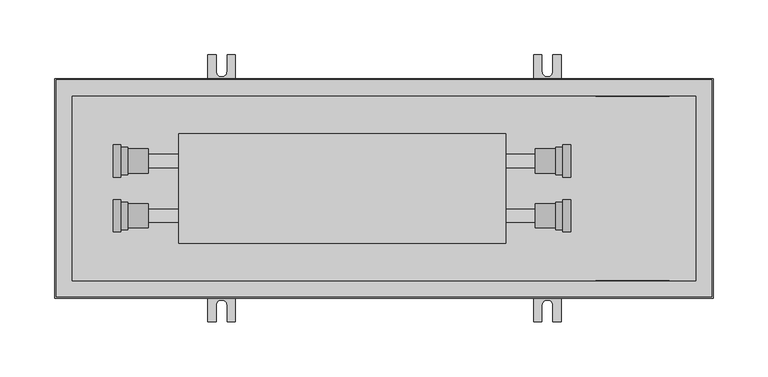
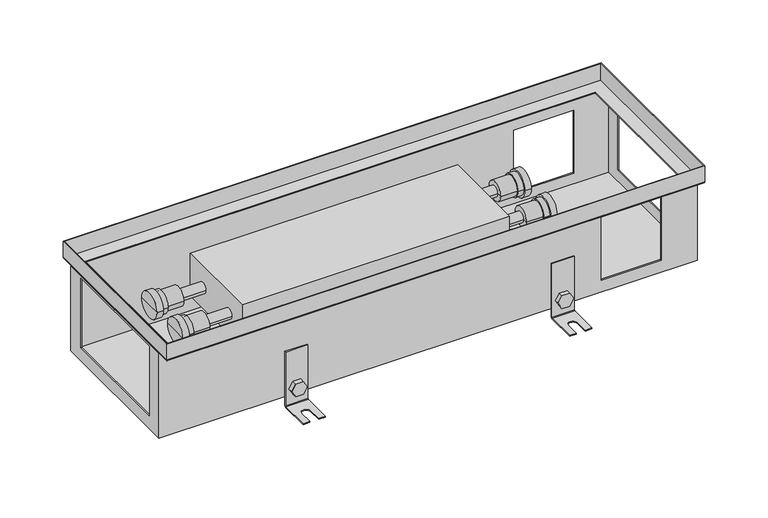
"""IFC4 building model written with IfcOpenShell, lengths in millimetres: proxy geometry, TECHNO_Конвектор встраиваемый_Usual_KVP-200_85-105-120 : KVP 200-120."""

from ifc_helpers import new_model, si_unit, point, frame, frame_2d, origin, place, context, project, spatial, polyline, circle_curve, ellipse_curve, trimmed, segment, composite_curve, outline, extrude, faceted_brep, source, transform, mapped, element, save
from ifc_brep_helpers import plane_surface, cylinder_surface, revolved_surface, advanced_brep


def mechanical_equipment_65e398eb(model_context):
    return source(origin(), model_context, "Body", "SolidModel", [
        extrude(outline(composite_curve([segment(trimmed(circle_curve(frame_2d((-110.5, 449.0)), 7.5), [point((-110.5, 441.5))], [point((-110.5, 456.5))], False, "CARTESIAN"), True, "CONTINUOUS"), segment(trimmed(circle_curve(frame_2d((-110.5, 449.0)), 7.5), [point((-110.5, 456.5))], [point((-110.5, 441.5))], False, "CARTESIAN"), True, "CONTINUOUS")], self_intersect=False)), frame((0.0, 85.2, 0.0), z_axis=(0.0, 1.0, 0.0), x_axis=(0.0, 0.0, 1.0)), (0.0, 0.0, 1.0), 1.5),
        extrude(outline(polyline([(-110.5, 440.339746), (-118.0, 444.669873), (-118.0, 453.330127), (-110.5, 457.660254), (-103.0, 453.330127), (-103.0, 444.669873), (-110.5, 440.339746)])), frame((0.0, 87.9, 0.0), z_axis=(0.0, 1.0, 0.0), x_axis=(0.0, 0.0, 1.0)), (0.0, 0.0, 1.0), 5.1),
        advanced_brep(
        [(461.5, 87.9, -65.5), (461.5, 86.7, -65.5), (461.5, 86.7, -128.5), (461.5, 88.7, -130.5), (461.5, 121.7, -130.5), (461.5, 121.7, -129.3), (461.5, 88.7, -129.3), (461.5, 87.9, -128.5), (436.5, 87.9, -65.5), (436.5, 87.9, -128.5), (436.5, 88.7, -129.3), (436.5, 121.7, -129.3), (436.5, 121.7, -130.5), (436.5, 88.7, -130.5), (436.5, 86.7, -128.5), (436.5, 86.7, -65.5), (454.0, 121.7, -129.3), (454.0, 106.7, -129.3), (444.0, 106.7, -129.3), (444.0, 121.7, -129.3), (444.0, 121.7, -130.5), (454.0, 121.7, -130.5), (444.0, 106.7, -130.5), (454.0, 106.7, -130.5)],
        [
            (0, 1),
            (1, 2),
            (2, 3, circle_curve(frame((461.5, 88.7, -128.5), z_axis=(1.0, 0.0, 0.0), x_axis=(0.0, 1.0, 0.0)), 2.0)),
            (3, 4),
            (4, 5),
            (5, 6),
            (6, 7, circle_curve(frame((461.5, 88.7, -128.5), z_axis=(-1.0, 0.0, 0.0), x_axis=(0.0, 1.0, 0.0)), 0.8)),
            (7, 0),
            (8, 9),
            (9, 10, circle_curve(frame((436.5, 88.7, -128.5), z_axis=(1.0, 0.0, 0.0), x_axis=(0.0, 1.0, 0.0)), 0.8)),
            (10, 11),
            (11, 12),
            (12, 13),
            (13, 14, circle_curve(frame((436.5, 88.7, -128.5), z_axis=(-1.0, 0.0, 0.0), x_axis=(0.0, 1.0, 0.0)), 2.0)),
            (14, 15),
            (15, 8),
            (7, 9),
            (8, 0),
            (6, 10),
            (5, 16),
            (16, 17),
            (17, 18, circle_curve(frame((449.0, 106.7, -129.3), z_axis=(0.0, 0.0, -1.0), x_axis=(1.0, 0.0, 0.0)), 5.0)),
            (18, 19),
            (19, 11),
            (19, 20),
            (20, 12),
            (4, 21),
            (21, 16),
            (3, 13),
            (20, 22),
            (22, 23, circle_curve(frame((449.0, 106.7, -130.5), z_axis=(0.0, 0.0, 1.0), x_axis=(1.0, 0.0, 0.0)), 5.0)),
            (23, 21),
            (2, 14),
            (1, 15),
            (18, 22),
            (23, 17),
        ],
        [
            plane_surface(frame((461.5, 87.9, -65.5), z_axis=(1.0, 0.0, 0.0), x_axis=(0.0, 0.0, -1.0))),
            plane_surface(frame((436.5, 87.9, -65.5), z_axis=(-1.0, 0.0, 0.0), x_axis=(0.0, 0.0, 1.0))),
            plane_surface(frame((461.5, 87.9, -65.5), z_axis=(0.0, 1.0, 0.0), x_axis=(-1.0, 0.0, 0.0))),
            revolved_surface(polyline([(436.5, 89.5, -128.5), (461.5, 89.5, -128.5)]), (436.5, 88.7, -128.5), (-1.0, 0.0, 0.0)),
            plane_surface(frame((461.5, 88.7, -129.3), z_axis=(0.0, 0.0, 1.0), x_axis=(-1.0, 0.0, 0.0))),
            plane_surface(frame((461.5, 121.7, -129.3), z_axis=(0.0, 1.0, 0.0), x_axis=(-1.0, 0.0, 0.0))),
            plane_surface(frame((461.5, 121.7, -130.5), z_axis=(0.0, 0.0, -1.0), x_axis=(-1.0, 0.0, 0.0))),
            cylinder_surface(frame((436.5, 88.7, -128.5), z_axis=(1.0, 0.0, 0.0), x_axis=(0.0, 1.0, 0.0)), 2.0),
            plane_surface(frame((461.5, 86.7, -128.5), z_axis=(0.0, -1.0, 0.0), x_axis=(-1.0, 0.0, 0.0))),
            plane_surface(frame((461.5, 86.7, -65.5), z_axis=(0.0, 0.0, 1.0), x_axis=(-1.0, 0.0, 0.0))),
            plane_surface(frame((444.0, 106.7, -129.3), z_axis=(1.0, 0.0, 0.0), x_axis=(0.0, 0.0, -1.0))),
            plane_surface(frame((454.0, 121.7, -129.3), z_axis=(-1.0, 0.0, 0.0), x_axis=(0.0, 0.0, -1.0))),
            revolved_surface(polyline([(454.0, 106.7, -129.3), (454.0, 106.7, -130.5)]), (449.0, 106.7, -130.5), (0.0, 0.0, 1.0)),
        ],
        [
            (0, [[1, 2, 3, 4, 5, 6, 7, 8]]),
            (1, [[9, 10, 11, 12, 13, 14, 15, 16]]),
            (2, [[17, -9, 18, -8]]),
            (3, [[19, -10, -17, -7]]),
            (4, [[20, 21, 22, 23, 24, -11, -19, -6]]),
            (5, [[-24, 25, 26, -12]]),
            (5, [[27, 28, -20, -5]]),
            (6, [[29, -13, -26, 30, 31, 32, -27, -4]]),
            (7, [[33, -14, -29, -3]]),
            (8, [[34, -15, -33, -2]]),
            (9, [[-18, -16, -34, -1]]),
            (10, [[-30, -25, -23, 35]]),
            (11, [[-21, -28, -32, 36]]),
            (12, [[-22, -36, -31, -35]]),
        ],
    ),
        extrude(outline(composite_curve([segment(trimmed(circle_curve(frame_2d((-110.5, 449.0)), 7.5), [point((-110.5, 441.5))], [point((-110.5, 456.5))], False, "CARTESIAN"), True, "CONTINUOUS"), segment(trimmed(circle_curve(frame_2d((-110.5, 449.0)), 7.5), [point((-110.5, 456.5))], [point((-110.5, 441.5))], False, "CARTESIAN"), True, "CONTINUOUS")], self_intersect=False)), frame((0.0, -86.7, 0.0), z_axis=(0.0, 1.0, 0.0), x_axis=(0.0, 0.0, 1.0)), (0.0, 0.0, 1.0), 1.5),
        extrude(outline(polyline([(-110.5, 440.339746), (-118.0, 444.669873), (-118.0, 453.330127), (-110.5, 457.660254), (-103.0, 453.330127), (-103.0, 444.669873), (-110.5, 440.339746)])), frame((0.0, -93.0, 0.0), z_axis=(0.0, 1.0, 0.0), x_axis=(0.0, 0.0, 1.0)), (0.0, 0.0, 1.0), 5.1),
        advanced_brep(
        [(461.5, -87.9, -65.5), (461.5, -87.9, -128.5), (461.5, -88.7, -129.3), (461.5, -121.7, -129.3), (461.5, -121.7, -130.5), (461.5, -88.7, -130.5), (461.5, -86.7, -128.5), (461.5, -86.7, -65.5), (436.5, -87.9, -65.5), (436.5, -86.7, -65.5), (436.5, -86.7, -128.5), (436.5, -88.7, -130.5), (436.5, -121.7, -130.5), (436.5, -121.7, -129.3), (436.5, -88.7, -129.3), (436.5, -87.9, -128.5), (444.0, -121.7, -129.3), (444.0, -106.7, -129.3), (454.0, -106.7, -129.3), (454.0, -121.7, -129.3), (454.0, -121.7, -130.5), (444.0, -121.7, -130.5), (454.0, -106.7, -130.5), (444.0, -106.7, -130.5)],
        [
            (0, 1),
            (1, 2, circle_curve(frame((461.5, -88.7, -128.5), z_axis=(-1.0, 0.0, 0.0), x_axis=(0.0, -1.0, 0.0)), 0.8)),
            (2, 3),
            (3, 4),
            (4, 5),
            (5, 6, circle_curve(frame((461.5, -88.7, -128.5), z_axis=(1.0, 0.0, 0.0), x_axis=(0.0, -1.0, 0.0)), 2.0)),
            (6, 7),
            (7, 0),
            (8, 9),
            (9, 10),
            (10, 11, circle_curve(frame((436.5, -88.7, -128.5), z_axis=(-1.0, 0.0, 0.0), x_axis=(0.0, -1.0, 0.0)), 2.0)),
            (11, 12),
            (12, 13),
            (13, 14),
            (14, 15, circle_curve(frame((436.5, -88.7, -128.5), z_axis=(1.0, 0.0, 0.0), x_axis=(0.0, -1.0, 0.0)), 0.8)),
            (15, 8),
            (0, 8),
            (15, 1),
            (14, 2),
            (13, 16),
            (16, 17),
            (17, 18, circle_curve(frame((449.0, -106.7, -129.3), z_axis=(0.0, 0.0, -1.0), x_axis=(1.0, 0.0, 0.0)), 5.0)),
            (18, 19),
            (19, 3),
            (19, 20),
            (20, 4),
            (12, 21),
            (21, 16),
            (20, 22),
            (22, 23, circle_curve(frame((449.0, -106.7, -130.5), z_axis=(0.0, 0.0, 1.0), x_axis=(1.0, 0.0, 0.0)), 5.0)),
            (23, 21),
            (11, 5),
            (10, 6),
            (9, 7),
            (23, 17),
            (18, 22),
        ],
        [
            plane_surface(frame((461.5, -87.9, -65.5), z_axis=(1.0, 0.0, 0.0), x_axis=(0.0, 0.0, -1.0))),
            plane_surface(frame((436.5, -87.9, -65.5), z_axis=(-1.0, 0.0, 0.0), x_axis=(0.0, 0.0, 1.0))),
            plane_surface(frame((461.5, -87.9, -65.5), z_axis=(0.0, -1.0, 0.0), x_axis=(-1.0, 0.0, 0.0))),
            revolved_surface(polyline([(436.5, -89.5, -128.5), (461.5, -89.5, -128.5)]), (436.5, -88.7, -128.5), (-1.0, 0.0, 0.0)),
            plane_surface(frame((461.5, -88.7, -129.3), z_axis=(0.0, 0.0, 1.0), x_axis=(-1.0, 0.0, 0.0))),
            plane_surface(frame((461.5, -121.7, -129.3), z_axis=(0.0, -1.0, 0.0), x_axis=(-1.0, 0.0, 0.0))),
            plane_surface(frame((461.5, -121.7, -130.5), z_axis=(0.0, 0.0, -1.0), x_axis=(-1.0, 0.0, 0.0))),
            cylinder_surface(frame((436.5, -88.7, -128.5), z_axis=(1.0, 0.0, 0.0), x_axis=(0.0, -1.0, 0.0)), 2.0),
            plane_surface(frame((461.5, -86.7, -128.5), z_axis=(0.0, 1.0, 0.0), x_axis=(-1.0, 0.0, 0.0))),
            plane_surface(frame((461.5, -86.7, -65.5), z_axis=(0.0, 0.0, 1.0), x_axis=(-1.0, 0.0, 0.0))),
            plane_surface(frame((444.0, -106.7, -129.3), z_axis=(1.0, 0.0, 0.0), x_axis=(0.0, 0.0, -1.0))),
            plane_surface(frame((454.0, -121.7, -129.3), z_axis=(-1.0, 0.0, 0.0), x_axis=(0.0, 0.0, -1.0))),
            revolved_surface(polyline([(454.0, -106.7, -129.3), (454.0, -106.7, -130.5)]), (449.0, -106.7, -130.5), (0.0, 0.0, 1.0)),
        ],
        [
            (0, [[1, 2, 3, 4, 5, 6, 7, 8]]),
            (1, [[9, 10, 11, 12, 13, 14, 15, 16]]),
            (2, [[-1, 17, -16, 18]]),
            (3, [[-2, -18, -15, 19]]),
            (4, [[-3, -19, -14, 20, 21, 22, 23, 24]]),
            (5, [[-4, -24, 25, 26]]),
            (5, [[-13, 27, 28, -20]]),
            (6, [[-5, -26, 29, 30, 31, -27, -12, 32]]),
            (7, [[-6, -32, -11, 33]]),
            (8, [[-7, -33, -10, 34]]),
            (9, [[-8, -34, -9, -17]]),
            (10, [[35, -21, -28, -31]]),
            (11, [[36, -29, -25, -23]]),
            (12, [[-35, -30, -36, -22]]),
        ],
    ),
        extrude(outline(composite_curve([segment(trimmed(circle_curve(frame_2d((-110.5, 152.0)), 7.5), [point((-110.5, 144.5))], [point((-110.5, 159.5))], False, "CARTESIAN"), True, "CONTINUOUS"), segment(trimmed(circle_curve(frame_2d((-110.5, 152.0)), 7.5), [point((-110.5, 159.5))], [point((-110.5, 144.5))], False, "CARTESIAN"), True, "CONTINUOUS")], self_intersect=False)), frame((0.0, 85.2, 0.0), z_axis=(0.0, 1.0, 0.0), x_axis=(0.0, 0.0, 1.0)), (0.0, 0.0, 1.0), 1.5),
        extrude(outline(polyline([(-110.5, 143.339746), (-118.0, 147.669873), (-118.0, 156.330127), (-110.5, 160.660254), (-103.0, 156.330127), (-103.0, 147.669873), (-110.5, 143.339746)])), frame((0.0, 87.9, 0.0), z_axis=(0.0, 1.0, 0.0), x_axis=(0.0, 0.0, 1.0)), (0.0, 0.0, 1.0), 5.1),
        advanced_brep(
        [(164.5, 87.9, -65.5), (164.5, 86.7, -65.5), (164.5, 86.7, -128.5), (164.5, 88.7, -130.5), (164.5, 121.7, -130.5), (164.5, 121.7, -129.3), (164.5, 88.7, -129.3), (164.5, 87.9, -128.5), (139.5, 87.9, -65.5), (139.5, 87.9, -128.5), (139.5, 88.7, -129.3), (139.5, 121.7, -129.3), (139.5, 121.7, -130.5), (139.5, 88.7, -130.5), (139.5, 86.7, -128.5), (139.5, 86.7, -65.5), (157.0, 121.7, -129.3), (157.0, 106.7, -129.3), (147.0, 106.7, -129.3), (147.0, 121.7, -129.3), (147.0, 121.7, -130.5), (157.0, 121.7, -130.5), (147.0, 106.7, -130.5), (157.0, 106.7, -130.5)],
        [
            (0, 1),
            (1, 2),
            (2, 3, circle_curve(frame((164.5, 88.7, -128.5), z_axis=(1.0, 0.0, 0.0), x_axis=(0.0, 1.0, 0.0)), 2.0)),
            (3, 4),
            (4, 5),
            (5, 6),
            (6, 7, circle_curve(frame((164.5, 88.7, -128.5), z_axis=(-1.0, 0.0, 0.0), x_axis=(0.0, 1.0, 0.0)), 0.8)),
            (7, 0),
            (8, 9),
            (9, 10, circle_curve(frame((139.5, 88.7, -128.5), z_axis=(1.0, 0.0, 0.0), x_axis=(0.0, 1.0, 0.0)), 0.8)),
            (10, 11),
            (11, 12),
            (12, 13),
            (13, 14, circle_curve(frame((139.5, 88.7, -128.5), z_axis=(-1.0, 0.0, 0.0), x_axis=(0.0, 1.0, 0.0)), 2.0)),
            (14, 15),
            (15, 8),
            (7, 9),
            (8, 0),
            (6, 10),
            (5, 16),
            (16, 17),
            (17, 18, circle_curve(frame((152.0, 106.7, -129.3), z_axis=(0.0, 0.0, -1.0), x_axis=(1.0, 0.0, 0.0)), 5.0)),
            (18, 19),
            (19, 11),
            (19, 20),
            (20, 12),
            (4, 21),
            (21, 16),
            (3, 13),
            (20, 22),
            (22, 23, circle_curve(frame((152.0, 106.7, -130.5), z_axis=(0.0, 0.0, 1.0), x_axis=(1.0, 0.0, 0.0)), 5.0)),
            (23, 21),
            (2, 14),
            (1, 15),
            (18, 22),
            (23, 17),
        ],
        [
            plane_surface(frame((164.5, 87.9, -65.5), z_axis=(1.0, 0.0, 0.0), x_axis=(0.0, 0.0, -1.0))),
            plane_surface(frame((139.5, 87.9, -65.5), z_axis=(-1.0, 0.0, 0.0), x_axis=(0.0, 0.0, 1.0))),
            plane_surface(frame((164.5, 87.9, -65.5), z_axis=(0.0, 1.0, 0.0), x_axis=(-1.0, 0.0, 0.0))),
            revolved_surface(polyline([(139.5, 89.5, -128.5), (164.5, 89.5, -128.5)]), (139.5, 88.7, -128.5), (-1.0, 0.0, 0.0)),
            plane_surface(frame((164.5, 88.7, -129.3), z_axis=(0.0, 0.0, 1.0), x_axis=(-1.0, 0.0, 0.0))),
            plane_surface(frame((164.5, 121.7, -129.3), z_axis=(0.0, 1.0, 0.0), x_axis=(-1.0, 0.0, 0.0))),
            plane_surface(frame((164.5, 121.7, -130.5), z_axis=(0.0, 0.0, -1.0), x_axis=(-1.0, 0.0, 0.0))),
            cylinder_surface(frame((139.5, 88.7, -128.5), z_axis=(1.0, 0.0, 0.0), x_axis=(0.0, 1.0, 0.0)), 2.0),
            plane_surface(frame((164.5, 86.7, -128.5), z_axis=(0.0, -1.0, 0.0), x_axis=(-1.0, 0.0, 0.0))),
            plane_surface(frame((164.5, 86.7, -65.5), z_axis=(0.0, 0.0, 1.0), x_axis=(-1.0, 0.0, 0.0))),
            plane_surface(frame((147.0, 106.7, -129.3), z_axis=(1.0, 0.0, 0.0), x_axis=(0.0, 0.0, -1.0))),
            plane_surface(frame((157.0, 121.7, -129.3), z_axis=(-1.0, 0.0, 0.0), x_axis=(0.0, 0.0, -1.0))),
            revolved_surface(polyline([(157.0, 106.7, -129.3), (157.0, 106.7, -130.5)]), (152.0, 106.7, -130.5), (0.0, 0.0, 1.0)),
        ],
        [
            (0, [[1, 2, 3, 4, 5, 6, 7, 8]]),
            (1, [[9, 10, 11, 12, 13, 14, 15, 16]]),
            (2, [[17, -9, 18, -8]]),
            (3, [[19, -10, -17, -7]]),
            (4, [[20, 21, 22, 23, 24, -11, -19, -6]]),
            (5, [[-24, 25, 26, -12]]),
            (5, [[27, 28, -20, -5]]),
            (6, [[29, -13, -26, 30, 31, 32, -27, -4]]),
            (7, [[33, -14, -29, -3]]),
            (8, [[34, -15, -33, -2]]),
            (9, [[-18, -16, -34, -1]]),
            (10, [[-30, -25, -23, 35]]),
            (11, [[-21, -28, -32, 36]]),
            (12, [[-22, -36, -31, -35]]),
        ],
    ),
        extrude(outline(composite_curve([segment(trimmed(circle_curve(frame_2d((-110.5, 152.0)), 7.5), [point((-110.5, 144.5))], [point((-110.5, 159.5))], False, "CARTESIAN"), True, "CONTINUOUS"), segment(trimmed(circle_curve(frame_2d((-110.5, 152.0)), 7.5), [point((-110.5, 159.5))], [point((-110.5, 144.5))], False, "CARTESIAN"), True, "CONTINUOUS")], self_intersect=False)), frame((0.0, -86.7, 0.0), z_axis=(0.0, 1.0, 0.0), x_axis=(0.0, 0.0, 1.0)), (0.0, 0.0, 1.0), 1.5),
        extrude(outline(polyline([(-110.5, 143.339746), (-118.0, 147.669873), (-118.0, 156.330127), (-110.5, 160.660254), (-103.0, 156.330127), (-103.0, 147.669873), (-110.5, 143.339746)])), frame((0.0, -93.0, 0.0), z_axis=(0.0, 1.0, 0.0), x_axis=(0.0, 0.0, 1.0)), (0.0, 0.0, 1.0), 5.1),
        advanced_brep(
        [(164.5, -87.9, -65.5), (164.5, -87.9, -128.5), (164.5, -88.7, -129.3), (164.5, -121.7, -129.3), (164.5, -121.7, -130.5), (164.5, -88.7, -130.5), (164.5, -86.7, -128.5), (164.5, -86.7, -65.5), (139.5, -87.9, -65.5), (139.5, -86.7, -65.5), (139.5, -86.7, -128.5), (139.5, -88.7, -130.5), (139.5, -121.7, -130.5), (139.5, -121.7, -129.3), (139.5, -88.7, -129.3), (139.5, -87.9, -128.5), (147.0, -121.7, -129.3), (147.0, -106.7, -129.3), (157.0, -106.7, -129.3), (157.0, -121.7, -129.3), (157.0, -121.7, -130.5), (147.0, -121.7, -130.5), (157.0, -106.7, -130.5), (147.0, -106.7, -130.5)],
        [
            (0, 1),
            (1, 2, circle_curve(frame((164.5, -88.7, -128.5), z_axis=(-1.0, 0.0, 0.0), x_axis=(0.0, -1.0, 0.0)), 0.8)),
            (2, 3),
            (3, 4),
            (4, 5),
            (5, 6, circle_curve(frame((164.5, -88.7, -128.5), z_axis=(1.0, 0.0, 0.0), x_axis=(0.0, -1.0, 0.0)), 2.0)),
            (6, 7),
            (7, 0),
            (8, 9),
            (9, 10),
            (10, 11, circle_curve(frame((139.5, -88.7, -128.5), z_axis=(-1.0, 0.0, 0.0), x_axis=(0.0, -1.0, 0.0)), 2.0)),
            (11, 12),
            (12, 13),
            (13, 14),
            (14, 15, circle_curve(frame((139.5, -88.7, -128.5), z_axis=(1.0, 0.0, 0.0), x_axis=(0.0, -1.0, 0.0)), 0.8)),
            (15, 8),
            (0, 8),
            (15, 1),
            (14, 2),
            (13, 16),
            (16, 17),
            (17, 18, circle_curve(frame((152.0, -106.7, -129.3), z_axis=(0.0, 0.0, -1.0), x_axis=(1.0, 0.0, 0.0)), 5.0)),
            (18, 19),
            (19, 3),
            (19, 20),
            (20, 4),
            (12, 21),
            (21, 16),
            (20, 22),
            (22, 23, circle_curve(frame((152.0, -106.7, -130.5), z_axis=(0.0, 0.0, 1.0), x_axis=(1.0, 0.0, 0.0)), 5.0)),
            (23, 21),
            (11, 5),
            (10, 6),
            (9, 7),
            (23, 17),
            (18, 22),
        ],
        [
            plane_surface(frame((164.5, -87.9, -65.5), z_axis=(1.0, 0.0, 0.0), x_axis=(0.0, 0.0, -1.0))),
            plane_surface(frame((139.5, -87.9, -65.5), z_axis=(-1.0, 0.0, 0.0), x_axis=(0.0, 0.0, 1.0))),
            plane_surface(frame((164.5, -87.9, -65.5), z_axis=(0.0, -1.0, 0.0), x_axis=(-1.0, 0.0, 0.0))),
            revolved_surface(polyline([(139.5, -89.5, -128.5), (164.5, -89.5, -128.5)]), (139.5, -88.7, -128.5), (-1.0, 0.0, 0.0)),
            plane_surface(frame((164.5, -88.7, -129.3), z_axis=(0.0, 0.0, 1.0), x_axis=(-1.0, 0.0, 0.0))),
            plane_surface(frame((164.5, -121.7, -129.3), z_axis=(0.0, -1.0, 0.0), x_axis=(-1.0, 0.0, 0.0))),
            plane_surface(frame((164.5, -121.7, -130.5), z_axis=(0.0, 0.0, -1.0), x_axis=(-1.0, 0.0, 0.0))),
            cylinder_surface(frame((139.5, -88.7, -128.5), z_axis=(1.0, 0.0, 0.0), x_axis=(0.0, -1.0, 0.0)), 2.0),
            plane_surface(frame((164.5, -86.7, -128.5), z_axis=(0.0, 1.0, 0.0), x_axis=(-1.0, 0.0, 0.0))),
            plane_surface(frame((164.5, -86.7, -65.5), z_axis=(0.0, 0.0, 1.0), x_axis=(-1.0, 0.0, 0.0))),
            plane_surface(frame((147.0, -106.7, -129.3), z_axis=(1.0, 0.0, 0.0), x_axis=(0.0, 0.0, -1.0))),
            plane_surface(frame((157.0, -121.7, -129.3), z_axis=(-1.0, 0.0, 0.0), x_axis=(0.0, 0.0, -1.0))),
            revolved_surface(polyline([(157.0, -106.7, -129.3), (157.0, -106.7, -130.5)]), (152.0, -106.7, -130.5), (0.0, 0.0, 1.0)),
        ],
        [
            (0, [[1, 2, 3, 4, 5, 6, 7, 8]]),
            (1, [[9, 10, 11, 12, 13, 14, 15, 16]]),
            (2, [[-1, 17, -16, 18]]),
            (3, [[-2, -18, -15, 19]]),
            (4, [[-3, -19, -14, 20, 21, 22, 23, 24]]),
            (5, [[-4, -24, 25, 26]]),
            (5, [[-13, 27, 28, -20]]),
            (6, [[-5, -26, 29, 30, 31, -27, -12, 32]]),
            (7, [[-6, -32, -11, 33]]),
            (8, [[-7, -33, -10, 34]]),
            (9, [[-8, -34, -9, -17]]),
            (10, [[35, -21, -28, -31]]),
            (11, [[36, -29, -25, -23]]),
            (12, [[-35, -30, -36, -22]]),
        ],
    ),
        advanced_brep(
        [(85.0, 14.0, -48.5), (85.0, 36.0, -48.5), (85.0, 25.0, -48.5), (66.5, 14.0, -48.5), (66.5, 36.0, -48.5), (66.5, 12.5, -48.5), (66.5, 37.5, -48.5), (60.0, 12.5, -48.5), (60.0, 37.5, -48.5), (60.0, 10.3, -48.5), (60.0, 39.7, -48.5), (53.0, 10.3, -48.5), (53.0, 39.7, -48.5), (53.0, 25.0, -48.5)],
        [
            (0, 1, circle_curve(frame((85.0, 25.0, -48.5), z_axis=(1.0, 0.0, 0.0), x_axis=(0.0, 1.0, 0.0)), 11.0)),
            (1, 2),
            (2, 0),
            (1, 0, circle_curve(frame((85.0, 25.0, -48.5), z_axis=(1.0, 0.0, 0.0), x_axis=(0.0, 1.0, 0.0)), 11.0)),
            (3, 4, circle_curve(frame((66.5, 25.0, -48.5), z_axis=(1.0, 0.0, 0.0), x_axis=(0.0, 1.0, 0.0)), 11.0)),
            (4, 1),
            (0, 3),
            (4, 3, circle_curve(frame((66.5, 25.0, -48.5), z_axis=(1.0, 0.0, 0.0), x_axis=(0.0, 1.0, 0.0)), 11.0)),
            (5, 6, circle_curve(frame((66.5, 25.0, -48.5), z_axis=(1.0, 0.0, 0.0), x_axis=(0.0, 1.0, 0.0)), 12.5)),
            (6, 4),
            (3, 5),
            (6, 5, circle_curve(frame((66.5, 25.0, -48.5), z_axis=(1.0, 0.0, 0.0), x_axis=(0.0, 1.0, 0.0)), 12.5)),
            (7, 8, circle_curve(frame((60.0, 25.0, -48.5), z_axis=(1.0, 0.0, 0.0), x_axis=(0.0, 1.0, 0.0)), 12.5)),
            (8, 6),
            (5, 7),
            (8, 7, circle_curve(frame((60.0, 25.0, -48.5), z_axis=(1.0, 0.0, 0.0), x_axis=(0.0, 1.0, 0.0)), 12.5)),
            (9, 10, circle_curve(frame((60.0, 25.0, -48.5), z_axis=(1.0, 0.0, 0.0), x_axis=(0.0, 1.0, 0.0)), 14.7)),
            (10, 8),
            (7, 9),
            (10, 9, circle_curve(frame((60.0, 25.0, -48.5), z_axis=(1.0, 0.0, 0.0), x_axis=(0.0, 1.0, 0.0)), 14.7)),
            (11, 12, circle_curve(frame((53.0, 25.0, -48.5), z_axis=(1.0, 0.0, 0.0), x_axis=(0.0, 1.0, 0.0)), 14.7)),
            (12, 10),
            (9, 11),
            (12, 11, circle_curve(frame((53.0, 25.0, -48.5), z_axis=(1.0, 0.0, 0.0), x_axis=(0.0, 1.0, 0.0)), 14.7)),
            (13, 12),
            (11, 13),
        ],
        [
            plane_surface(frame((85.0, 25.0, -48.5), z_axis=(1.0, 0.0, 0.0), x_axis=(0.0, 1.0, 0.0))),
            cylinder_surface(frame((43.0, 25.0, -48.5), z_axis=(-1.0, 0.0, 0.0), x_axis=(0.0, 1.0, 0.0)), 11.0),
            plane_surface(frame((66.5, 25.0, -48.5), z_axis=(1.0, 0.0, 0.0), x_axis=(0.0, 1.0, 0.0))),
            cylinder_surface(frame((43.0, 25.0, -48.5), z_axis=(-1.0, 0.0, 0.0), x_axis=(0.0, 1.0, 0.0)), 12.5),
            plane_surface(frame((60.0, 25.0, -48.5), z_axis=(1.0, 0.0, 0.0), x_axis=(0.0, 1.0, 0.0))),
            cylinder_surface(frame((43.0, 25.0, -48.5), z_axis=(-1.0, 0.0, 0.0), x_axis=(0.0, 1.0, 0.0)), 14.7),
            plane_surface(frame((53.0, 25.0, -48.5), z_axis=(-1.0, 0.0, 0.0), x_axis=(0.0, 1.0, 0.0))),
        ],
        [
            (0, [[1, 2, 3]]),
            (0, [[4, -3, -2]]),
            (1, [[5, 6, -1, 7]]),
            (1, [[8, -7, -4, -6]]),
            (2, [[9, 10, -5, 11]]),
            (2, [[12, -11, -8, -10]]),
            (3, [[13, 14, -9, 15]]),
            (3, [[16, -15, -12, -14]]),
            (4, [[17, 18, -13, 19]]),
            (4, [[20, -19, -16, -18]]),
            (5, [[21, 22, -17, 23]]),
            (5, [[24, -23, -20, -22]]),
            (6, [[25, -21, 26]]),
            (6, [[-26, -24, -25]]),
        ],
    ),
        advanced_brep(
        [(85.0, -36.0, -48.5), (85.0, -14.0, -48.5), (85.0, -25.0, -48.5), (66.5, -36.0, -48.5), (66.5, -14.0, -48.5), (66.5, -37.5, -48.5), (66.5, -12.5, -48.5), (60.0, -37.5, -48.5), (60.0, -12.5, -48.5), (60.0, -39.7, -48.5), (60.0, -10.3, -48.5), (53.0, -39.7, -48.5), (53.0, -10.3, -48.5), (53.0, -25.0, -48.5)],
        [
            (0, 1, circle_curve(frame((85.0, -25.0, -48.5), z_axis=(1.0, 0.0, 0.0), x_axis=(0.0, 1.0, 0.0)), 11.0)),
            (1, 2),
            (2, 0),
            (1, 0, circle_curve(frame((85.0, -25.0, -48.5), z_axis=(1.0, 0.0, 0.0), x_axis=(0.0, 1.0, 0.0)), 11.0)),
            (3, 4, circle_curve(frame((66.5, -25.0, -48.5), z_axis=(1.0, 0.0, 0.0), x_axis=(0.0, 1.0, 0.0)), 11.0)),
            (4, 1),
            (0, 3),
            (4, 3, circle_curve(frame((66.5, -25.0, -48.5), z_axis=(1.0, 0.0, 0.0), x_axis=(0.0, 1.0, 0.0)), 11.0)),
            (5, 6, circle_curve(frame((66.5, -25.0, -48.5), z_axis=(1.0, 0.0, 0.0), x_axis=(0.0, 1.0, 0.0)), 12.5)),
            (6, 4),
            (3, 5),
            (6, 5, circle_curve(frame((66.5, -25.0, -48.5), z_axis=(1.0, 0.0, 0.0), x_axis=(0.0, 1.0, 0.0)), 12.5)),
            (7, 8, circle_curve(frame((60.0, -25.0, -48.5), z_axis=(1.0, 0.0, 0.0), x_axis=(0.0, 1.0, 0.0)), 12.5)),
            (8, 6),
            (5, 7),
            (8, 7, circle_curve(frame((60.0, -25.0, -48.5), z_axis=(1.0, 0.0, 0.0), x_axis=(0.0, 1.0, 0.0)), 12.5)),
            (9, 10, circle_curve(frame((60.0, -25.0, -48.5), z_axis=(1.0, 0.0, 0.0), x_axis=(0.0, 1.0, 0.0)), 14.7)),
            (10, 8),
            (7, 9),
            (10, 9, circle_curve(frame((60.0, -25.0, -48.5), z_axis=(1.0, 0.0, 0.0), x_axis=(0.0, 1.0, 0.0)), 14.7)),
            (11, 12, circle_curve(frame((53.0, -25.0, -48.5), z_axis=(1.0, 0.0, 0.0), x_axis=(0.0, 1.0, 0.0)), 14.7)),
            (12, 10),
            (9, 11),
            (12, 11, circle_curve(frame((53.0, -25.0, -48.5), z_axis=(1.0, 0.0, 0.0), x_axis=(0.0, 1.0, 0.0)), 14.7)),
            (13, 12),
            (11, 13),
        ],
        [
            plane_surface(frame((85.0, -25.0, -48.5), z_axis=(1.0, 0.0, 0.0), x_axis=(0.0, 1.0, 0.0))),
            cylinder_surface(frame((43.0, -25.0, -48.5), z_axis=(-1.0, 0.0, 0.0), x_axis=(0.0, 1.0, 0.0)), 11.0),
            plane_surface(frame((66.5, -25.0, -48.5), z_axis=(1.0, 0.0, 0.0), x_axis=(0.0, 1.0, 0.0))),
            cylinder_surface(frame((43.0, -25.0, -48.5), z_axis=(-1.0, 0.0, 0.0), x_axis=(0.0, 1.0, 0.0)), 12.5),
            plane_surface(frame((60.0, -25.0, -48.5), z_axis=(1.0, 0.0, 0.0), x_axis=(0.0, 1.0, 0.0))),
            cylinder_surface(frame((43.0, -25.0, -48.5), z_axis=(-1.0, 0.0, 0.0), x_axis=(0.0, 1.0, 0.0)), 14.7),
            plane_surface(frame((53.0, -25.0, -48.5), z_axis=(-1.0, 0.0, 0.0), x_axis=(0.0, 1.0, 0.0))),
        ],
        [
            (0, [[1, 2, 3]]),
            (0, [[4, -3, -2]]),
            (1, [[5, 6, -1, 7]]),
            (1, [[8, -7, -4, -6]]),
            (2, [[9, 10, -5, 11]]),
            (2, [[12, -11, -8, -10]]),
            (3, [[13, 14, -9, 15]]),
            (3, [[16, -15, -12, -14]]),
            (4, [[17, 18, -13, 19]]),
            (4, [[20, -19, -16, -18]]),
            (5, [[21, 22, -17, 23]]),
            (5, [[24, -23, -20, -22]]),
            (6, [[25, -21, 26]]),
            (6, [[-26, -24, -25]]),
        ],
    ),
        extrude(outline(polyline([(411.0, 50.0), (411.0, -50.0), (113.0, -50.0), (113.0, 50.0), (411.0, 50.0)])), frame((0.0, 0.0, -73.5), z_axis=(0.0, 0.0, 1.0), x_axis=(1.0, 0.0, 0.0)), (0.0, 0.0, 1.0), 50.0),
        advanced_brep(
        [(438.0, 25.0, -48.5), (438.0, 36.0, -48.5), (438.0, 14.0, -48.5), (456.5, 36.0, -48.5), (456.5, 14.0, -48.5), (456.5, 37.5, -48.5), (456.5, 12.5, -48.5), (463.0, 37.5, -48.5), (463.0, 12.5, -48.5), (463.0, 39.7, -48.5), (463.0, 10.3, -48.5), (470.0, 39.7, -48.5), (470.0, 10.3, -48.5), (470.0, 25.0, -48.5)],
        [
            (0, 1),
            (1, 2, circle_curve(frame((438.0, 25.0, -48.5), z_axis=(-1.0, 0.0, 0.0), x_axis=(0.0, 1.0, 0.0)), 11.0)),
            (2, 0),
            (2, 1, circle_curve(frame((438.0, 25.0, -48.5), z_axis=(-1.0, 0.0, 0.0), x_axis=(0.0, 1.0, 0.0)), 11.0)),
            (1, 3),
            (3, 4, circle_curve(frame((456.5, 25.0, -48.5), z_axis=(-1.0, 0.0, 0.0), x_axis=(0.0, 1.0, 0.0)), 11.0)),
            (4, 2),
            (4, 3, circle_curve(frame((456.5, 25.0, -48.5), z_axis=(-1.0, 0.0, 0.0), x_axis=(0.0, 1.0, 0.0)), 11.0)),
            (3, 5),
            (5, 6, circle_curve(frame((456.5, 25.0, -48.5), z_axis=(-1.0, 0.0, 0.0), x_axis=(0.0, 1.0, 0.0)), 12.5)),
            (6, 4),
            (6, 5, circle_curve(frame((456.5, 25.0, -48.5), z_axis=(-1.0, 0.0, 0.0), x_axis=(0.0, 1.0, 0.0)), 12.5)),
            (5, 7),
            (7, 8, circle_curve(frame((463.0, 25.0, -48.5), z_axis=(-1.0, 0.0, 0.0), x_axis=(0.0, 1.0, 0.0)), 12.5)),
            (8, 6),
            (8, 7, circle_curve(frame((463.0, 25.0, -48.5), z_axis=(-1.0, 0.0, 0.0), x_axis=(0.0, 1.0, 0.0)), 12.5)),
            (7, 9),
            (9, 10, circle_curve(frame((463.0, 25.0, -48.5), z_axis=(-1.0, 0.0, 0.0), x_axis=(0.0, 1.0, 0.0)), 14.7)),
            (10, 8),
            (10, 9, circle_curve(frame((463.0, 25.0, -48.5), z_axis=(-1.0, 0.0, 0.0), x_axis=(0.0, 1.0, 0.0)), 14.7)),
            (9, 11),
            (11, 12, circle_curve(frame((470.0, 25.0, -48.5), z_axis=(-1.0, 0.0, 0.0), x_axis=(0.0, 1.0, 0.0)), 14.7)),
            (12, 10),
            (12, 11, circle_curve(frame((470.0, 25.0, -48.5), z_axis=(-1.0, 0.0, 0.0), x_axis=(0.0, 1.0, 0.0)), 14.7)),
            (11, 13),
            (13, 12),
        ],
        [
            plane_surface(frame((438.0, 25.0, -48.5), z_axis=(-1.0, 0.0, 0.0), x_axis=(0.0, 1.0, 0.0))),
            cylinder_surface(frame((492.0, 25.0, -48.5), z_axis=(-1.0, 0.0, 0.0), x_axis=(0.0, 1.0, 0.0)), 11.0),
            plane_surface(frame((456.5, 25.0, -48.5), z_axis=(-1.0, 0.0, 0.0), x_axis=(0.0, 1.0, 0.0))),
            cylinder_surface(frame((492.0, 25.0, -48.5), z_axis=(-1.0, 0.0, 0.0), x_axis=(0.0, 1.0, 0.0)), 12.5),
            plane_surface(frame((463.0, 25.0, -48.5), z_axis=(-1.0, 0.0, 0.0), x_axis=(0.0, 1.0, 0.0))),
            cylinder_surface(frame((492.0, 25.0, -48.5), z_axis=(-1.0, 0.0, 0.0), x_axis=(0.0, 1.0, 0.0)), 14.7),
            plane_surface(frame((470.0, 25.0, -48.5), z_axis=(1.0, 0.0, 0.0), x_axis=(0.0, 1.0, 0.0))),
        ],
        [
            (0, [[1, 2, 3]]),
            (0, [[-3, 4, -1]]),
            (1, [[-2, 5, 6, 7]]),
            (1, [[-4, -7, 8, -5]]),
            (2, [[-6, 9, 10, 11]]),
            (2, [[-8, -11, 12, -9]]),
            (3, [[-10, 13, 14, 15]]),
            (3, [[-12, -15, 16, -13]]),
            (4, [[-14, 17, 18, 19]]),
            (4, [[-16, -19, 20, -17]]),
            (5, [[-18, 21, 22, 23]]),
            (5, [[-20, -23, 24, -21]]),
            (6, [[-22, 25, 26]]),
            (6, [[-24, -26, -25]]),
        ],
    ),
        advanced_brep(
        [(438.0, -25.0, -48.5), (438.0, -14.0, -48.5), (438.0, -36.0, -48.5), (456.5, -14.0, -48.5), (456.5, -36.0, -48.5), (456.5, -12.5, -48.5), (456.5, -37.5, -48.5), (463.0, -12.5, -48.5), (463.0, -37.5, -48.5), (463.0, -10.3, -48.5), (463.0, -39.7, -48.5), (470.0, -10.3, -48.5), (470.0, -39.7, -48.5), (470.0, -25.0, -48.5)],
        [
            (0, 1),
            (1, 2, circle_curve(frame((438.0, -25.0, -48.5), z_axis=(-1.0, 0.0, 0.0), x_axis=(0.0, 1.0, 0.0)), 11.0)),
            (2, 0),
            (2, 1, circle_curve(frame((438.0, -25.0, -48.5), z_axis=(-1.0, 0.0, 0.0), x_axis=(0.0, 1.0, 0.0)), 11.0)),
            (1, 3),
            (3, 4, circle_curve(frame((456.5, -25.0, -48.5), z_axis=(-1.0, 0.0, 0.0), x_axis=(0.0, 1.0, 0.0)), 11.0)),
            (4, 2),
            (4, 3, circle_curve(frame((456.5, -25.0, -48.5), z_axis=(-1.0, 0.0, 0.0), x_axis=(0.0, 1.0, 0.0)), 11.0)),
            (3, 5),
            (5, 6, circle_curve(frame((456.5, -25.0, -48.5), z_axis=(-1.0, 0.0, 0.0), x_axis=(0.0, 1.0, 0.0)), 12.5)),
            (6, 4),
            (6, 5, circle_curve(frame((456.5, -25.0, -48.5), z_axis=(-1.0, 0.0, 0.0), x_axis=(0.0, 1.0, 0.0)), 12.5)),
            (5, 7),
            (7, 8, circle_curve(frame((463.0, -25.0, -48.5), z_axis=(-1.0, 0.0, 0.0), x_axis=(0.0, 1.0, 0.0)), 12.5)),
            (8, 6),
            (8, 7, circle_curve(frame((463.0, -25.0, -48.5), z_axis=(-1.0, 0.0, 0.0), x_axis=(0.0, 1.0, 0.0)), 12.5)),
            (7, 9),
            (9, 10, circle_curve(frame((463.0, -25.0, -48.5), z_axis=(-1.0, 0.0, 0.0), x_axis=(0.0, 1.0, 0.0)), 14.7)),
            (10, 8),
            (10, 9, circle_curve(frame((463.0, -25.0, -48.5), z_axis=(-1.0, 0.0, 0.0), x_axis=(0.0, 1.0, 0.0)), 14.7)),
            (9, 11),
            (11, 12, circle_curve(frame((470.0, -25.0, -48.5), z_axis=(-1.0, 0.0, 0.0), x_axis=(0.0, 1.0, 0.0)), 14.7)),
            (12, 10),
            (12, 11, circle_curve(frame((470.0, -25.0, -48.5), z_axis=(-1.0, 0.0, 0.0), x_axis=(0.0, 1.0, 0.0)), 14.7)),
            (11, 13),
            (13, 12),
        ],
        [
            plane_surface(frame((438.0, -25.0, -48.5), z_axis=(-1.0, 0.0, 0.0), x_axis=(0.0, 1.0, 0.0))),
            cylinder_surface(frame((492.0, -25.0, -48.5), z_axis=(-1.0, 0.0, 0.0), x_axis=(0.0, 1.0, 0.0)), 11.0),
            plane_surface(frame((456.5, -25.0, -48.5), z_axis=(-1.0, 0.0, 0.0), x_axis=(0.0, 1.0, 0.0))),
            cylinder_surface(frame((492.0, -25.0, -48.5), z_axis=(-1.0, 0.0, 0.0), x_axis=(0.0, 1.0, 0.0)), 12.5),
            plane_surface(frame((463.0, -25.0, -48.5), z_axis=(-1.0, 0.0, 0.0), x_axis=(0.0, 1.0, 0.0))),
            cylinder_surface(frame((492.0, -25.0, -48.5), z_axis=(-1.0, 0.0, 0.0), x_axis=(0.0, 1.0, 0.0)), 14.7),
            plane_surface(frame((470.0, -25.0, -48.5), z_axis=(1.0, 0.0, 0.0), x_axis=(0.0, 1.0, 0.0))),
        ],
        [
            (0, [[1, 2, 3]]),
            (0, [[-3, 4, -1]]),
            (1, [[-2, 5, 6, 7]]),
            (1, [[-4, -7, 8, -5]]),
            (2, [[-6, 9, 10, 11]]),
            (2, [[-8, -11, 12, -9]]),
            (3, [[-10, 13, 14, 15]]),
            (3, [[-12, -15, 16, -13]]),
            (4, [[-14, 17, 18, 19]]),
            (4, [[-16, -19, 20, -17]]),
            (5, [[-18, 21, 22, 23]]),
            (5, [[-20, -23, 24, -21]]),
            (6, [[-22, 25, 26]]),
            (6, [[-24, -26, -25]]),
        ],
    ),
        extrude(outline(composite_curve([segment(trimmed(circle_curve(frame_2d((25.0, -48.5)), 6.0), [point((19.0, -48.5))], [point((31.0, -48.5))], False, "CARTESIAN"), True, "CONTINUOUS"), segment(trimmed(circle_curve(frame_2d((25.0, -48.5)), 6.0), [point((31.0, -48.5))], [point((19.0, -48.5))], False, "CARTESIAN"), True, "CONTINUOUS")], self_intersect=False)), frame((85.0, 0.0, 0.0), z_axis=(1.0, 0.0, 0.0), x_axis=(0.0, 1.0, 0.0)), (0.0, 0.0, 1.0), 353.0),
        extrude(outline(composite_curve([segment(trimmed(circle_curve(frame_2d((-25.0, -48.5)), 6.0), [point((-31.0, -48.5))], [point((-19.0, -48.5))], False, "CARTESIAN"), True, "CONTINUOUS"), segment(trimmed(circle_curve(frame_2d((-25.0, -48.5)), 6.0), [point((-19.0, -48.5))], [point((-31.0, -48.5))], False, "CARTESIAN"), True, "CONTINUOUS")], self_intersect=False)), frame((85.0, 0.0, 0.0), z_axis=(1.0, 0.0, 0.0), x_axis=(0.0, 1.0, 0.0)), (0.0, 0.0, 1.0), 353.0),
        faceted_brep([(598.8, -84.0, -118.8), (598.8, 84.0, -118.8), (1.2, 84.0, -118.8), (1.2, -84.0, -118.8), (0.0, -85.2, -120.0), (0.0, 85.2, -120.0), (600.0, 85.2, -120.0), (600.0, -85.2, -120.0), (600.0, -85.2, -20.5), (0.0, -85.2, -20.5), (493.0, -85.2, -32.0), (560.0, -85.2, -32.0), (560.0, -85.2, -106.0), (493.0, -85.2, -106.0), (600.0, 85.2, -20.5), (600.0, 66.0, -23.0), (600.0, 66.0, -105.0), (600.0, -66.0, -105.0), (600.0, -66.0, -23.0), (0.0, 85.2, -20.5), (560.0, 85.2, -32.0), (493.0, 85.2, -32.0), (493.0, 85.2, -106.0), (560.0, 85.2, -106.0), (0.0, 66.0, -105.0), (0.0, 66.0, -23.0), (0.0, -66.0, -23.0), (0.0, -66.0, -105.0), (598.8, -84.0, -20.5), (598.8, 84.0, -20.5), (598.8, 66.0, -105.0), (598.8, 66.0, -23.0), (598.8, -66.0, -23.0), (598.8, -66.0, -105.0), (1.2, -84.0, -20.5), (560.0, -84.0, -32.0), (493.0, -84.0, -32.0), (493.0, -84.0, -106.0), (560.0, -84.0, -106.0), (1.2, 84.0, -20.5), (1.2, 66.0, -23.0), (1.2, 66.0, -105.0), (1.2, -66.0, -105.0), (1.2, -66.0, -23.0), (493.0, 84.0, -32.0), (560.0, 84.0, -32.0), (560.0, 84.0, -106.0), (493.0, 84.0, -106.0)], [[[0, 1, 2, 3]], [[4, 5, 6, 7]], [[4, 7, 8, 9], [10, 11, 12, 13]], [[7, 6, 14, 8], [15, 16, 17, 18]], [[6, 5, 19, 14], [20, 21, 22, 23]], [[5, 4, 9, 19], [24, 25, 26, 27]], [[28, 29, 1, 0], [30, 31, 32, 33]], [[34, 28, 0, 3], [35, 36, 37, 38]], [[39, 34, 3, 2], [40, 41, 42, 43]], [[29, 39, 2, 1], [44, 45, 46, 47]], [[8, 14, 19, 9], [29, 28, 34, 39]], [[35, 11, 10, 36]], [[20, 45, 44, 21]], [[36, 10, 13, 37]], [[21, 44, 47, 22]], [[37, 13, 12, 38]], [[22, 47, 46, 23]], [[11, 35, 38, 12]], [[45, 20, 23, 46]], [[15, 31, 30, 16]], [[31, 15, 18, 32]], [[32, 18, 17, 33]], [[16, 30, 33, 17]], [[24, 41, 40, 25]], [[25, 40, 43, 26]], [[26, 43, 42, 27]], [[41, 24, 27, 42]]]),
        advanced_brep(
        [(584.0, 84.0, -19.3), (584.0, 84.0, -20.5), (584.0, -84.0, -20.5), (584.0, -84.0, -19.3), (598.8, 98.8, 0.0), (598.8, 98.8, -19.3), (598.8, -98.8, -19.3), (598.8, -98.8, 0.0), (600.0, 100.0, -18.5), (600.0, 100.0, 0.0), (600.0, -100.0, 0.0), (600.0, -100.0, -18.5), (16.0, -84.0, -20.5), (16.0, -84.0, -19.3), (1.2, -98.8, -19.3), (1.2, -98.8, 0.0), (0.0, -100.0, 0.0), (0.0, -100.0, -18.5), (16.0, 84.0, -20.5), (16.0, 84.0, -19.3), (1.2, 98.8, -19.3), (1.2, 98.8, 0.0), (0.0, 100.0, 0.0), (0.0, 100.0, -18.5), (598.0, -98.0, -20.5), (2.0, -98.0, -20.5), (2.0, 98.0, -20.5), (598.0, 98.0, -20.5)],
        [
            (0, 1),
            (1, 2),
            (2, 3),
            (3, 0),
            (4, 5),
            (5, 6),
            (6, 7),
            (7, 4),
            (8, 9),
            (9, 10),
            (10, 11),
            (11, 8),
            (2, 12),
            (12, 13),
            (13, 3),
            (6, 14),
            (14, 15),
            (15, 7),
            (10, 16),
            (16, 17),
            (17, 11),
            (12, 18),
            (18, 19),
            (19, 13),
            (14, 20),
            (20, 21),
            (21, 15),
            (16, 22),
            (22, 23),
            (23, 17),
            (24, 25),
            (25, 26),
            (26, 27),
            (27, 24),
            (1, 18),
            (0, 19),
            (5, 20),
            (4, 21),
            (9, 22),
            (8, 23),
            (27, 8, ellipse_curve(frame((598.0, 98.0, -18.5), z_axis=(0.7071067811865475, -0.7071067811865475, 0.0), x_axis=(0.7071067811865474, 0.7071067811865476, 0.0)), 2.8284271, 2.0)),
            (11, 24, ellipse_curve(frame((598.0, -98.0, -18.5), z_axis=(0.7071067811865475, 0.7071067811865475, 0.0), x_axis=(-0.7071067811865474, 0.7071067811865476, 0.0)), 2.8284271, 2.0)),
            (17, 25, ellipse_curve(frame((2.0, -98.0, -18.5), z_axis=(0.7071067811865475, -0.7071067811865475, 0.0), x_axis=(0.7071067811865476, 0.7071067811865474, 0.0)), 2.8284271, 2.0)),
            (23, 26, ellipse_curve(frame((2.0, 98.0, -18.5), z_axis=(-0.7071067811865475, -0.7071067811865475, 0.0), x_axis=(0.7071067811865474, -0.7071067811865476, 0.0)), 2.8284271, 2.0)),
        ],
        [
            plane_surface(frame((584.0, 84.0, -20.5), z_axis=(-1.0, 0.0, 0.0), x_axis=(0.0, -1.0, 0.0))),
            plane_surface(frame((598.8, 98.8, -19.3), z_axis=(-1.0, 0.0, 0.0), x_axis=(0.0, -1.0, 0.0))),
            plane_surface(frame((600.0, 100.0, 0.0), z_axis=(1.0, 0.0, 0.0), x_axis=(0.0, -1.0, 0.0))),
            plane_surface(frame((584.0, -84.0, -20.5), z_axis=(0.0, 1.0, 0.0), x_axis=(-1.0, 0.0, 0.0))),
            plane_surface(frame((598.8, -98.8, -19.3), z_axis=(0.0, 1.0, 0.0), x_axis=(-1.0, 0.0, 0.0))),
            plane_surface(frame((600.0, -100.0, 0.0), z_axis=(0.0, -1.0, 0.0), x_axis=(-1.0, 0.0, 0.0))),
            plane_surface(frame((16.0, -84.0, -20.5), z_axis=(1.0, 0.0, 0.0), x_axis=(0.0, 1.0, 0.0))),
            plane_surface(frame((1.2, -98.8, -19.3), z_axis=(1.0, 0.0, 0.0), x_axis=(0.0, 1.0, 0.0))),
            plane_surface(frame((0.0, -100.0, 0.0), z_axis=(-1.0, 0.0, 0.0), x_axis=(0.0, 1.0, 0.0))),
            plane_surface(frame((2.0, 98.0, -20.5), z_axis=(0.0, 0.0, -1.0), x_axis=(1.0, 0.0, 0.0))),
            plane_surface(frame((16.0, 84.0, -20.5), z_axis=(0.0, -1.0, 0.0), x_axis=(1.0, 0.0, 0.0))),
            plane_surface(frame((16.0, 84.0, -19.3), z_axis=(0.0, 0.0, 1.0), x_axis=(1.0, 0.0, 0.0))),
            plane_surface(frame((1.2, 98.8, -19.3), z_axis=(0.0, -1.0, 0.0), x_axis=(1.0, 0.0, 0.0))),
            plane_surface(frame((1.2, 98.8, 0.0), z_axis=(0.0, 0.0, 1.0), x_axis=(1.0, 0.0, 0.0))),
            plane_surface(frame((0.0, 100.0, 0.0), z_axis=(0.0, 1.0, 0.0), x_axis=(1.0, 0.0, 0.0))),
            cylinder_surface(frame((598.0, 100.0, -18.5), z_axis=(0.0, 1.0, 0.0), x_axis=(1.0, 0.0, 0.0)), 2.0),
            cylinder_surface(frame((600.0, -98.0, -18.5), z_axis=(1.0, 0.0, 0.0), x_axis=(0.0, -1.0, 0.0)), 2.0),
            cylinder_surface(frame((2.0, -100.0, -18.5), z_axis=(0.0, -1.0, 0.0), x_axis=(-1.0, 0.0, 0.0)), 2.0),
            cylinder_surface(frame((0.0, 98.0, -18.5), z_axis=(-1.0, 0.0, 0.0), x_axis=(0.0, 1.0, 0.0)), 2.0),
        ],
        [
            (0, [[1, 2, 3, 4]]),
            (1, [[5, 6, 7, 8]]),
            (2, [[9, 10, 11, 12]]),
            (3, [[-3, 13, 14, 15]]),
            (4, [[-7, 16, 17, 18]]),
            (5, [[-11, 19, 20, 21]]),
            (6, [[-14, 22, 23, 24]]),
            (7, [[-17, 25, 26, 27]]),
            (8, [[-20, 28, 29, 30]]),
            (9, [[31, 32, 33, 34], [35, -22, -13, -2]]),
            (10, [[-23, -35, -1, 36]]),
            (11, [[37, -25, -16, -6], [-15, -24, -36, -4]]),
            (12, [[-26, -37, -5, 38]]),
            (13, [[39, -28, -19, -10], [-18, -27, -38, -8]]),
            (14, [[-29, -39, -9, 40]]),
            (15, [[41, -12, 42, -34]]),
            (16, [[-42, -21, 43, -31]]),
            (17, [[-43, -30, 44, -32]]),
            (18, [[-44, -40, -41, -33]]),
        ],
    ),
    ])


if __name__ == "__main__":
    model = new_model("IFC4")
    model_context = context("Model", 3, world=origin())
    ifc_project = project(units=[si_unit("LENGTHUNIT", "METRE", prefix="MILLI")], contexts=[model_context])
    site = spatial("IfcSite", under=ifc_project)
    building = spatial("IfcBuilding", under=site)
    placement = place(None, origin())
    mechanical_equipment_shape = mechanical_equipment_65e398eb(model_context)
    element("IfcBuildingElementProxy", 1, Name="TECHNO_Конвектор встраиваемый_Usual_KVP-200_85-105-120 : KVP 200-120", ObjectType="TECHNO_Конвектор встраиваемый_Usual_KVP-200_85-105-120 : KVP 200-120", at=placement, inside=building, context=model_context, shape_type="MappedRepresentation", body=[
        mapped(mechanical_equipment_shape, transform((0.0, 0.0, 0.0), x_axis=(1.0, 0.0, 0.0), y_axis=(0.0, 1.0, 0.0), z_axis=(0.0, 0.0, 1.0))),
    ])
    save(model, "model.ifc")
